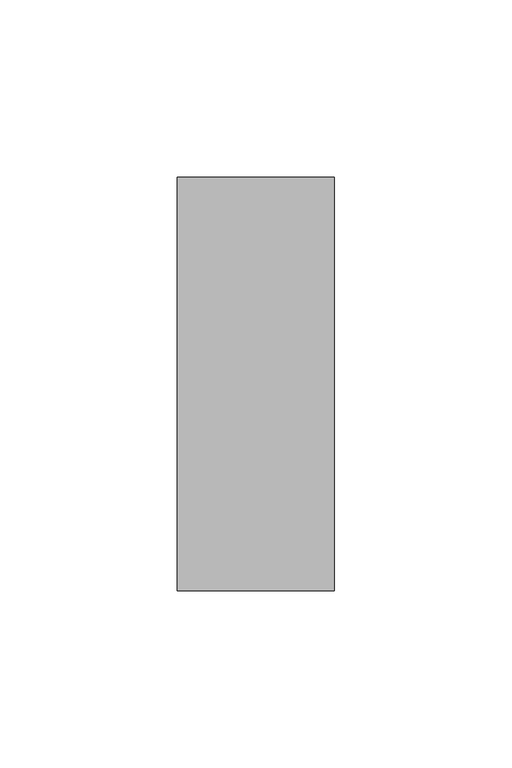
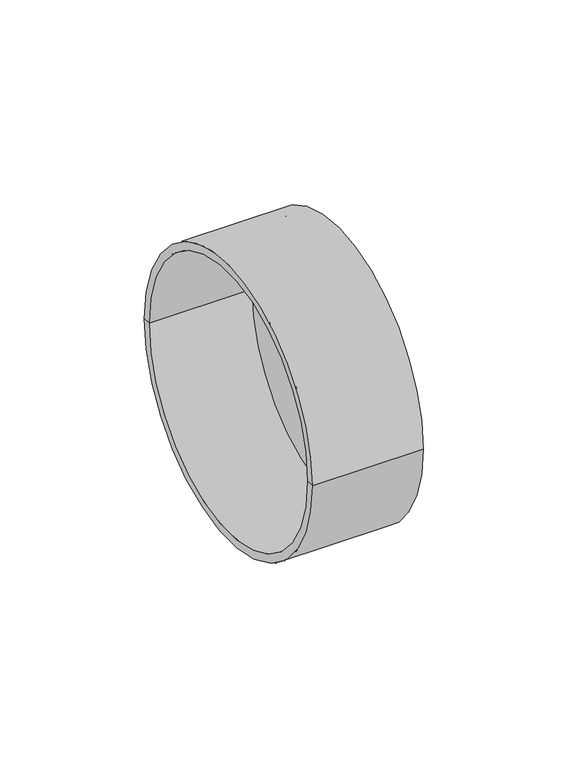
"""IFC4 building model written with IfcOpenShell, lengths in millimetres: pipe fitting geometry, pf_KGK_vicko : pf_KGK_vicko."""

from ifc_helpers import new_model, si_unit, frame, origin, place, context, project, spatial, polyline, circle_curve, source, transform, mapped, element, save
from ifc_brep_helpers import plane_surface, cylinder_surface, revolved_surface, advanced_brep


def pipe_fitting_2b2e1a89(model_context):
    return source(origin(), model_context, "Body", "AdvancedBrep", [
        advanced_brep(
        [(-41.0, -58.2, 0.0), (-41.0, 58.2, 0.0), (3.2, 58.2, 0.0), (3.2, -58.2, 0.0), (-41.0, -55.0, 0.0), (-41.0, 55.0, 0.0), (0.0, -55.0, 0.0), (0.0, 55.0, 0.0), (0.0, 0.0, 0.0), (3.2, 0.0, 0.0)],
        [
            (0, 1, circle_curve(frame((-41.0, 0.0, 0.0), z_axis=(1.0, 0.0, 0.0), x_axis=(0.0, 1.0, 0.0)), 58.2)),
            (1, 2),
            (2, 3, circle_curve(frame((3.2, 0.0, 0.0), z_axis=(-1.0, 0.0, 0.0), x_axis=(0.0, 1.0, 0.0)), 58.2)),
            (3, 0),
            (1, 0, circle_curve(frame((-41.0, 0.0, 0.0), z_axis=(1.0, 0.0, 0.0), x_axis=(0.0, 1.0, 0.0)), 58.2)),
            (3, 2, circle_curve(frame((3.2, 0.0, 0.0), z_axis=(-1.0, 0.0, 0.0), x_axis=(0.0, 1.0, 0.0)), 58.2)),
            (4, 5, circle_curve(frame((-41.0, 0.0, 0.0), z_axis=(1.0, 0.0, 0.0), x_axis=(0.0, 1.0, 0.0)), 55.0)),
            (5, 1),
            (0, 4),
            (5, 4, circle_curve(frame((-41.0, 0.0, 0.0), z_axis=(1.0, 0.0, 0.0), x_axis=(0.0, 1.0, 0.0)), 55.0)),
            (6, 7, circle_curve(frame((0.0, 0.0, 0.0), z_axis=(1.0, 0.0, 0.0), x_axis=(0.0, 1.0, 0.0)), 55.0)),
            (7, 5),
            (4, 6),
            (7, 6, circle_curve(frame((0.0, 0.0, 0.0), z_axis=(1.0, 0.0, 0.0), x_axis=(0.0, 1.0, 0.0)), 55.0)),
            (8, 7),
            (6, 8),
            (2, 9),
            (9, 3),
        ],
        [
            cylinder_surface(frame((-32.0241529, 0.0, 0.0), z_axis=(-1.0, 0.0, 0.0), x_axis=(0.0, 1.0, 0.0)), 58.2),
            plane_surface(frame((-41.0, 0.0, 0.0), z_axis=(-1.0, 0.0, 0.0), x_axis=(0.0, 1.0, 0.0))),
            revolved_surface(polyline([(-41.0, 55.0, 0.0), (0.0, 55.0, 0.0)]), (-32.0241529, 0.0, 0.0), (-1.0, 0.0, 0.0)),
            plane_surface(frame((0.0, 0.0, 0.0), z_axis=(-1.0, 0.0, 0.0), x_axis=(0.0, 1.0, 0.0))),
            plane_surface(frame((3.2, 0.0, 0.0), z_axis=(1.0, 0.0, 0.0), x_axis=(0.0, 1.0, 0.0))),
        ],
        [
            (0, [[1, 2, 3, 4]]),
            (0, [[5, -4, 6, -2]]),
            (1, [[7, 8, -1, 9]]),
            (1, [[10, -9, -5, -8]]),
            (2, [[11, 12, -7, 13]]),
            (2, [[14, -13, -10, -12]]),
            (3, [[15, -11, 16]]),
            (3, [[-16, -14, -15]]),
            (4, [[-3, 17, 18]]),
            (4, [[-6, -18, -17]]),
        ],
    ),
    ])


if __name__ == "__main__":
    model = new_model("IFC4")
    model_context = context("Model", 3, world=origin())
    ifc_project = project(units=[si_unit("LENGTHUNIT", "METRE", prefix="MILLI")], contexts=[model_context])
    site = spatial("IfcSite", under=ifc_project)
    building = spatial("IfcBuilding", under=site)
    placement = place(None, origin())
    pipe_fitting_shape = pipe_fitting_2b2e1a89(model_context)
    element("IfcPipeFitting", 1, ObjectType="pf_KGK_vicko : pf_KGK_vicko", at=placement, inside=building, context=model_context, shape_type="MappedRepresentation", body=[
        mapped(pipe_fitting_shape, transform((0.0, 0.0, 0.0), x_axis=(1.0, 0.0, 0.0), y_axis=(0.0, 1.0, 0.0), z_axis=(0.0, 0.0, 1.0))),
    ])
    save(model, "model.ifc")
